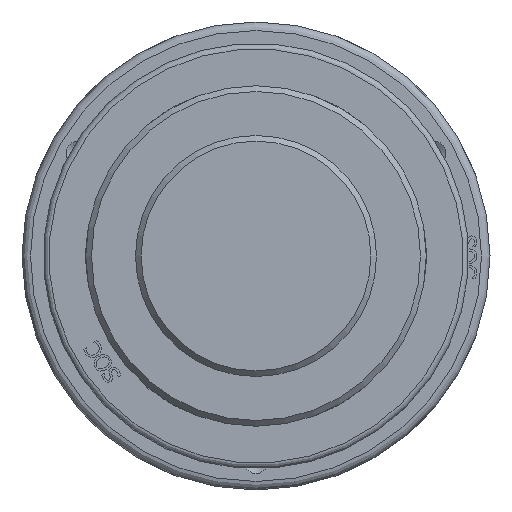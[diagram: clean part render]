
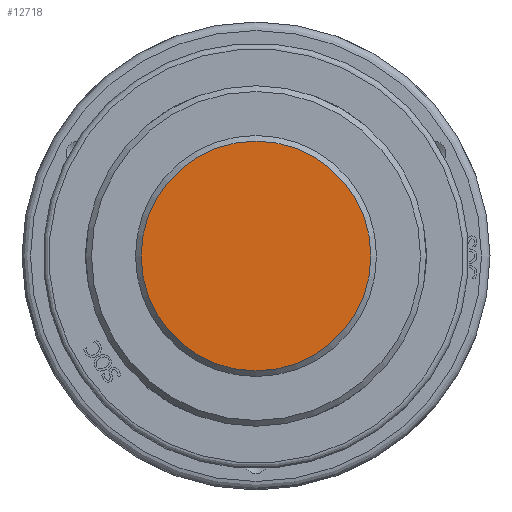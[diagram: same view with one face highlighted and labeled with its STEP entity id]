
A CAD part, front view. The second image highlights one B-rep face of the part: STEP entity #12718.
In plain terms, the highlighted planar face has unit normal (0, -1, 0) as drawn and (0, 1, 0) by its records, which use the part's own axes.
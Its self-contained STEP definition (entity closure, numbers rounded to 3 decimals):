
#85=CIRCLE('',#13439,40.5);
#304=PLANE('',#13442);
#694=FACE_OUTER_BOUND('',#1449,.T.);
#1449=EDGE_LOOP('',(#9212));
#5349=VERTEX_POINT('',#17851);
#6812=EDGE_CURVE('',#5349,#5349,#85,.T.);
#9212=ORIENTED_EDGE('',*,*,#6812,.F.);
#12718=ADVANCED_FACE('',(#694),#304,.T.);
#13439=AXIS2_PLACEMENT_3D('',#17852,#14160,#14161);
#13442=AXIS2_PLACEMENT_3D('',#17856,#14166,#14167);
#14160=DIRECTION('center_axis',(0.,-1.,0.));
#14161=DIRECTION('ref_axis',(1.,0.,0.));
#14166=DIRECTION('center_axis',(0.,1.,0.));
#14167=DIRECTION('ref_axis',(0.,0.,1.));
#17851=CARTESIAN_POINT('',(-40.5,750.,0.));
#17852=CARTESIAN_POINT('Origin',(0.,750.,0.));
#17856=CARTESIAN_POINT('Origin',(0.,750.,0.));
